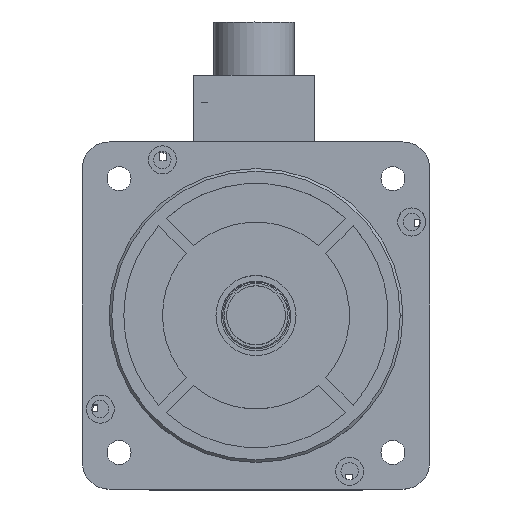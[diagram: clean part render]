
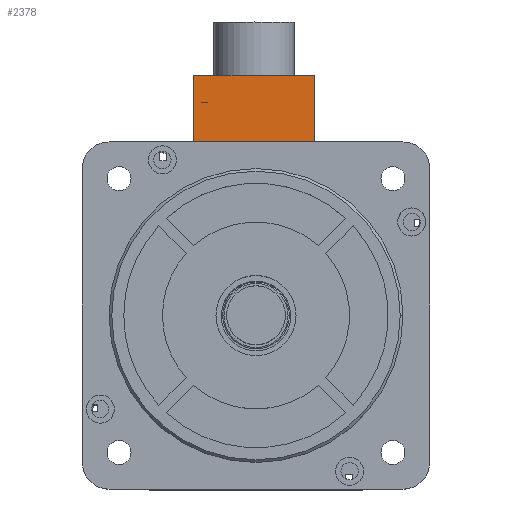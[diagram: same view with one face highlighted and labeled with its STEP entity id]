
A CAD part, top view. The second image highlights one B-rep face of the part: STEP entity #2378.
In plain terms, the highlighted planar face has unit normal (0, 0, 1) as drawn and (0, -1, 0) by its records, which use the part's own axes.
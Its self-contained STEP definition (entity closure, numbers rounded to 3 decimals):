
#585 = CARTESIAN_POINT ( 'NONE',  ( 0., 0., 0. ) ) ;
#688 = DIRECTION ( 'NONE',  ( 0., -1., 0. ) ) ;
#943 = AXIS2_PLACEMENT_3D ( 'NONE', #10885, #688, #7227 ) ;
#2378 = ADVANCED_FACE ( 'NONE', ( #9437 ), #2762, .T. ) ;
#2727 = ORIENTED_EDGE ( 'NONE', *, *, #14273, .F. ) ;
#2762 = PLANE ( 'NONE',  #943 ) ;
#3424 = CARTESIAN_POINT ( 'NONE',  ( 0., 0., 0. ) ) ;
#3669 = CARTESIAN_POINT ( 'NONE',  ( 45., 0., -25. ) ) ;
#4795 = VERTEX_POINT ( 'NONE', #3669 ) ;
#5099 = EDGE_CURVE ( 'NONE', #25318, #22965, #23837, .T. ) ;
#5627 = LINE ( 'NONE', #18718, #22053 ) ;
#6229 = DIRECTION ( 'NONE',  ( 0., 0., 1. ) ) ;
#6431 = DIRECTION ( 'NONE',  ( 0., 0., 1. ) ) ;
#7227 = DIRECTION ( 'NONE',  ( 0., 0., -1. ) ) ;
#7947 = VECTOR ( 'NONE', #6431, 1000. ) ;
#8548 = CARTESIAN_POINT ( 'NONE',  ( 45., 0., -25. ) ) ;
#9437 = FACE_OUTER_BOUND ( 'NONE', #23977, .T. ) ;
#9450 = ORIENTED_EDGE ( 'NONE', *, *, #10458, .T. ) ;
#10458 = EDGE_CURVE ( 'NONE', #20934, #4795, #14829, .T. ) ;
#10885 = CARTESIAN_POINT ( 'NONE',  ( 0., 0., -25. ) ) ;
#14273 = EDGE_CURVE ( 'NONE', #20934, #25318, #5627, .T. ) ;
#14387 = ORIENTED_EDGE ( 'NONE', *, *, #5099, .F. ) ;
#14402 = CARTESIAN_POINT ( 'NONE',  ( 0., 0., -25. ) ) ;
#14615 = DIRECTION ( 'NONE',  ( 1., 0., 0. ) ) ;
#14829 = LINE ( 'NONE', #20098, #23202 ) ;
#15449 = ORIENTED_EDGE ( 'NONE', *, *, #20433, .T. ) ;
#16128 = DIRECTION ( 'NONE',  ( 1., 0., 0. ) ) ;
#16393 = VECTOR ( 'NONE', #14615, 1000. ) ;
#18718 = CARTESIAN_POINT ( 'NONE',  ( 0., 0., -25. ) ) ;
#20098 = CARTESIAN_POINT ( 'NONE',  ( 0., 0., -25. ) ) ;
#20433 = EDGE_CURVE ( 'NONE', #4795, #22965, #26006, .T. ) ;
#20934 = VERTEX_POINT ( 'NONE', #14402 ) ;
#22053 = VECTOR ( 'NONE', #6229, 1000. ) ;
#22965 = VERTEX_POINT ( 'NONE', #26294 ) ;
#23202 = VECTOR ( 'NONE', #16128, 1000. ) ;
#23837 = LINE ( 'NONE', #585, #16393 ) ;
#23977 = EDGE_LOOP ( 'NONE', ( #14387, #2727, #9450, #15449 ) ) ;
#25318 = VERTEX_POINT ( 'NONE', #3424 ) ;
#26006 = LINE ( 'NONE', #8548, #7947 ) ;
#26294 = CARTESIAN_POINT ( 'NONE',  ( 45., 0., 0. ) ) ;
